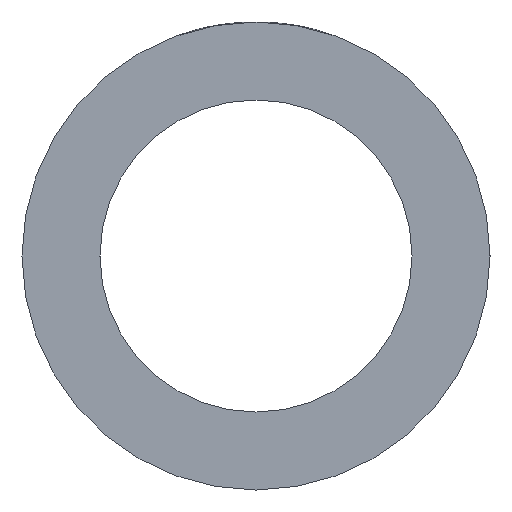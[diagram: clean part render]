
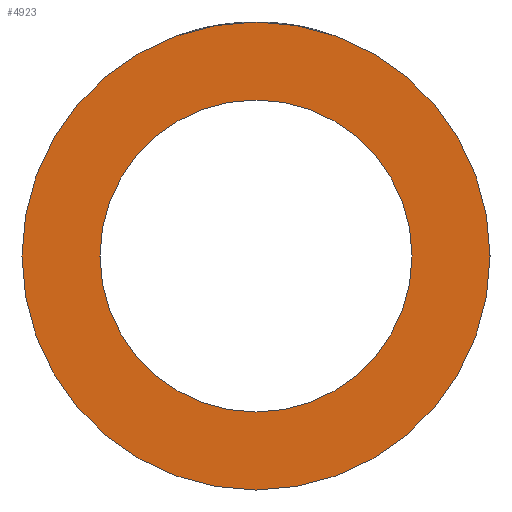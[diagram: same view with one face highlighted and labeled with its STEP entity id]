
A CAD part, left-side view. The second image highlights one B-rep face of the part: STEP entity #4923.
In plain terms, the highlighted planar face has unit normal (-1, 0, 0).
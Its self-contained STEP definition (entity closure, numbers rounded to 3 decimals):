
#114=PLANE('',#5308);
#338=CIRCLE('',#5307,75.);
#339=CIRCLE('',#5309,50.);
#1459=ORIENTED_EDGE('',*,*,#2937,.T.);
#1460=ORIENTED_EDGE('',*,*,#2936,.F.);
#2936=EDGE_CURVE('',#3675,#3675,#338,.T.);
#2937=EDGE_CURVE('',#3676,#3676,#339,.T.);
#3675=VERTEX_POINT('',#7940);
#3676=VERTEX_POINT('',#7943);
#4176=EDGE_LOOP('',(#1459));
#4177=EDGE_LOOP('',(#1460));
#4543=FACE_BOUND('',#4176,.T.);
#4544=FACE_BOUND('',#4177,.T.);
#4923=ADVANCED_FACE('',(#4543,#4544),#114,.F.);
#5307=AXIS2_PLACEMENT_3D('',#7939,#5813,#5814);
#5308=AXIS2_PLACEMENT_3D('',#7941,#5815,#5816);
#5309=AXIS2_PLACEMENT_3D('',#7942,#5817,#5818);
#5813=DIRECTION('',(1.,0.,0.));
#5814=DIRECTION('',(0.,0.,-1.));
#5815=DIRECTION('',(1.,0.,0.));
#5816=DIRECTION('',(0.,0.,-1.));
#5817=DIRECTION('',(1.,0.,0.));
#5818=DIRECTION('',(0.,0.,-1.));
#7939=CARTESIAN_POINT('',(-87.5,0.,0.));
#7940=CARTESIAN_POINT('',(-87.5,0.,-75.));
#7941=CARTESIAN_POINT('',(-87.5,0.,0.));
#7942=CARTESIAN_POINT('',(-87.5,0.,0.));
#7943=CARTESIAN_POINT('',(-87.5,0.,-50.));
